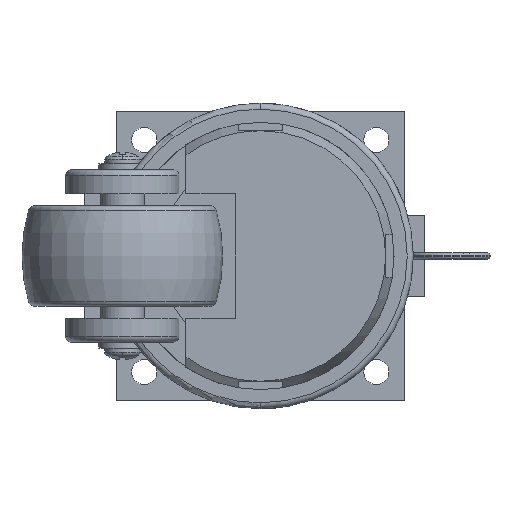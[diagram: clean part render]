
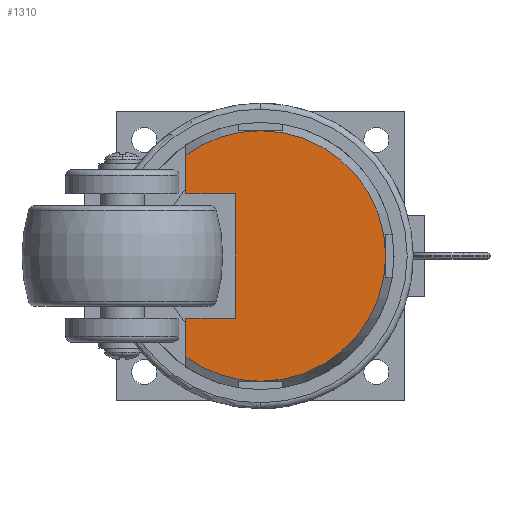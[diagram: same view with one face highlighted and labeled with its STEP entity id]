
A CAD part, front view. The second image highlights one B-rep face of the part: STEP entity #1310.
In plain terms, the highlighted planar face has unit normal (0, -1, 0).
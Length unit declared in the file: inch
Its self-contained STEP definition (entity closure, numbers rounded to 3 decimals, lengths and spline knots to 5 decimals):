
#551 = EDGE_CURVE ( 'NONE', #19096, #8717, #9052, .T. ) ;
#681 = EDGE_CURVE ( 'NONE', #19096, #19163, #9392, .T. ) ;
#694 = EDGE_CURVE ( 'NONE', #8179, #8727, #9028, .T. ) ;
#700 = EDGE_CURVE ( 'NONE', #8199, #8265, #9033, .T. ) ;
#718 = EDGE_CURVE ( 'NONE', #19099, #8199, #9393, .T. ) ;
#730 = EDGE_CURVE ( 'NONE', #8717, #19044, #9027, .T. ) ;
#777 = EDGE_CURVE ( 'NONE', #19163, #8727, #9409, .T. ) ;
#779 = EDGE_CURVE ( 'NONE', #19044, #19099, #9118, .T. ) ;
#1310 = ADVANCED_FACE ( 'NONE', ( #2475 ), #4883, .F. ) ;
#2475 = FACE_OUTER_BOUND ( 'NONE', #19625, .T. ) ;
#3736 = CARTESIAN_POINT ( 'NONE',  ( -0.74172, -0.54167, 1.5226 ) ) ;
#3737 = DIRECTION ( 'NONE',  ( 0., 0., 1. ) ) ;
#4479 = CARTESIAN_POINT ( 'NONE',  ( 0., -0.54167, 0. ) ) ;
#4501 = DIRECTION ( 'NONE',  ( -1., 0., 0. ) ) ;
#4502 = DIRECTION ( 'NONE',  ( 0., 1., 0. ) ) ;
#4879 = DIRECTION ( 'NONE',  ( -1., 0., 0. ) ) ;
#4880 = DIRECTION ( 'NONE',  ( 0., 1., 0. ) ) ;
#4883 = PLANE ( 'NONE',  #14534 ) ;
#4886 = CARTESIAN_POINT ( 'NONE',  ( 0., -0.54167, 0. ) ) ;
#7400 = CARTESIAN_POINT ( 'NONE',  ( -0.74172, -0.54167, -0.62 ) ) ;
#7408 = CARTESIAN_POINT ( 'NONE',  ( 0., -0.54167, -1.24887 ) ) ;
#7444 = CARTESIAN_POINT ( 'NONE',  ( -0.74172, -0.54167, -1.00475 ) ) ;
#7688 = CARTESIAN_POINT ( 'NONE',  ( -0.74172, -0.54167, 1.00475 ) ) ;
#7693 = CARTESIAN_POINT ( 'NONE',  ( -0.25, -0.54167, -0.62 ) ) ;
#7893 = CARTESIAN_POINT ( 'NONE',  ( 0., -0.54167, 1.24887 ) ) ;
#7945 = CARTESIAN_POINT ( 'NONE',  ( -0.74172, -0.54167, 0.62 ) ) ;
#7948 = CARTESIAN_POINT ( 'NONE',  ( 1.24887, -0.54167, 0. ) ) ;
#8012 = CARTESIAN_POINT ( 'NONE',  ( -0.25, -0.54167, 0.62 ) ) ;
#8179 = VERTEX_POINT ( 'NONE', #7400 ) ;
#8199 = VERTEX_POINT ( 'NONE', #7408 ) ;
#8265 = VERTEX_POINT ( 'NONE', #7444 ) ;
#8717 = VERTEX_POINT ( 'NONE', #7688 ) ;
#8727 = VERTEX_POINT ( 'NONE', #7693 ) ;
#9027 = CIRCLE ( 'NONE', #20281, 1.24887 ) ;
#9028 = LINE ( 'NONE', #14990, #9031 ) ;
#9031 = VECTOR ( 'NONE', #14989, 39.37008 ) ;
#9033 = CIRCLE ( 'NONE', #20407, 1.24887 ) ;
#9049 = VECTOR ( 'NONE', #12116, 39.37008 ) ;
#9052 = LINE ( 'NONE', #12117, #9049 ) ;
#9096 = VECTOR ( 'NONE', #20984, 39.37008 ) ;
#9118 = CIRCLE ( 'NONE', #20309, 1.24887 ) ;
#9369 = VECTOR ( 'NONE', #18524, 39.37008 ) ;
#9392 = LINE ( 'NONE', #20985, #9096 ) ;
#9393 = CIRCLE ( 'NONE', #20405, 1.24887 ) ;
#9409 = LINE ( 'NONE', #18568, #9369 ) ;
#10060 = ORIENTED_EDGE ( 'NONE', *, *, #779, .F. ) ;
#10061 = ORIENTED_EDGE ( 'NONE', *, *, #718, .F. ) ;
#10062 = ORIENTED_EDGE ( 'NONE', *, *, #700, .F. ) ;
#10063 = ORIENTED_EDGE ( 'NONE', *, *, #20765, .F. ) ;
#10064 = ORIENTED_EDGE ( 'NONE', *, *, #694, .F. ) ;
#10065 = ORIENTED_EDGE ( 'NONE', *, *, #777, .T. ) ;
#10066 = ORIENTED_EDGE ( 'NONE', *, *, #681, .T. ) ;
#10067 = ORIENTED_EDGE ( 'NONE', *, *, #551, .F. ) ;
#10069 = ORIENTED_EDGE ( 'NONE', *, *, #730, .F. ) ;
#12116 = DIRECTION ( 'NONE',  ( 0., 0., 1. ) ) ;
#12117 = CARTESIAN_POINT ( 'NONE',  ( -0.74172, -0.54167, 1.5226 ) ) ;
#14534 = AXIS2_PLACEMENT_3D ( 'NONE', #4886, #4880, #4879 ) ;
#14868 = CARTESIAN_POINT ( 'NONE',  ( 0., -0.54167, 0. ) ) ;
#14949 = DIRECTION ( 'NONE',  ( -1., 0., 0. ) ) ;
#14950 = DIRECTION ( 'NONE',  ( 0., 1., 0. ) ) ;
#14956 = CARTESIAN_POINT ( 'NONE',  ( 0., -0.54167, 0. ) ) ;
#14989 = DIRECTION ( 'NONE',  ( 1., 0., 0. ) ) ;
#14990 = CARTESIAN_POINT ( 'NONE',  ( 0., -0.54167, -0.62 ) ) ;
#15888 = VECTOR ( 'NONE', #3737, 39.37008 ) ;
#15889 = LINE ( 'NONE', #3736, #15888 ) ;
#17428 = DIRECTION ( 'NONE',  ( -1., 0., 0. ) ) ;
#17432 = DIRECTION ( 'NONE',  ( 0., 1., 0. ) ) ;
#18524 = DIRECTION ( 'NONE',  ( 0., 0., -1. ) ) ;
#18530 = CARTESIAN_POINT ( 'NONE',  ( 0., -0.54167, 0. ) ) ;
#18568 = CARTESIAN_POINT ( 'NONE',  ( -0.25, -0.54167, 0. ) ) ;
#18773 = DIRECTION ( 'NONE',  ( 0., 1., 0. ) ) ;
#18778 = DIRECTION ( 'NONE',  ( -1., 0., 0. ) ) ;
#19044 = VERTEX_POINT ( 'NONE', #7893 ) ;
#19096 = VERTEX_POINT ( 'NONE', #7945 ) ;
#19099 = VERTEX_POINT ( 'NONE', #7948 ) ;
#19163 = VERTEX_POINT ( 'NONE', #8012 ) ;
#19625 = EDGE_LOOP ( 'NONE', ( #10069, #10067, #10066, #10065, #10064, #10063, #10062, #10061, #10060 ) ) ;
#20281 = AXIS2_PLACEMENT_3D ( 'NONE', #4479, #17432, #17428 ) ;
#20309 = AXIS2_PLACEMENT_3D ( 'NONE', #18530, #18773, #18778 ) ;
#20405 = AXIS2_PLACEMENT_3D ( 'NONE', #14868, #4502, #4501 ) ;
#20407 = AXIS2_PLACEMENT_3D ( 'NONE', #14956, #14950, #14949 ) ;
#20765 = EDGE_CURVE ( 'NONE', #8265, #8179, #15889, .T. ) ;
#20984 = DIRECTION ( 'NONE',  ( 1., 0., 0. ) ) ;
#20985 = CARTESIAN_POINT ( 'NONE',  ( 0., -0.54167, 0.62 ) ) ;
